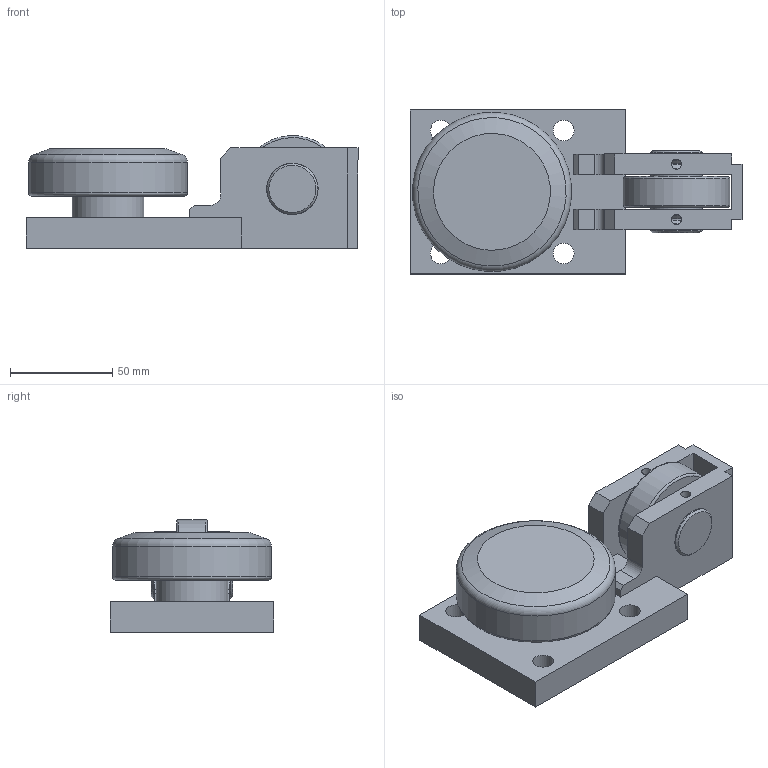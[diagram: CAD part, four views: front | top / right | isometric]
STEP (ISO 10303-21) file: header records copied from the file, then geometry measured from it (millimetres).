
FILE_DESCRIPTION((''),'2;1');
FILE_NAME('K:\Daten\KOMPONENTEN 2D + 3D\Rollen\STR xxx.4200\ALFATEC_STR 080.4200.stp','2013-05-28T10:20:18',('Wenzelburger'),(''),'Autodesk Inventor 2013','Autodesk Inventor 2013','');
FILE_SCHEMA(('AUTOMOTIVE_DESIGN { 1 0 10303 214 1 1 1 1 }'));
Length unit declared in the file: millimetre
Products named in the file (1): _STR 080.4200-Zusammenbau_Konturvereinfachung
Bounding box: 162 x 80 x 54.96 mm (x, y, z)
Volume: 334755.7 mm3; surface area: 62783.3 mm2
Topology: 2 solids, 2 shells, 65 faces, 168 edges, 110 vertices
Faces by surface type: plane 35, cylinder 17, cone 7, torus 6
Full cylindrical faces by diameter (mm): 4.917 x2, 10.106 x4, 25 x4, 25.1 x2, 35 x1, 52 x1, 77.7 x1
Entity records: 1955 total; most frequent: CARTESIAN_POINT 364, DIRECTION 304, ORIENTED_EDGE 262, EDGE_CURVE 131, EDGE_LOOP 114, AXIS2_PLACEMENT_3D 109, VERTEX_POINT 101, VECTOR 86
